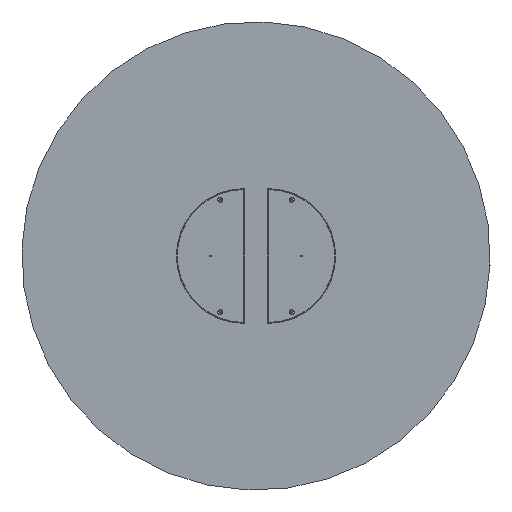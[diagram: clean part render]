
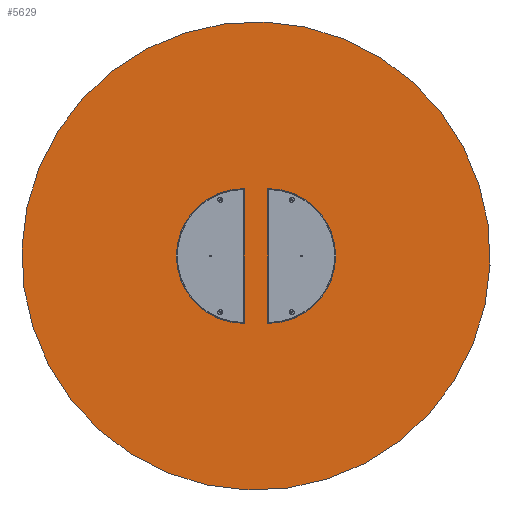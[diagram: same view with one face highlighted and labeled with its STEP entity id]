
A CAD part, front view. The second image highlights one B-rep face of the part: STEP entity #5629.
In plain terms, the highlighted planar face has unit normal (0, -1, 0).
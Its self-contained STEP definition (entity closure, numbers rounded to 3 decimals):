
#58 = CIRCLE ( 'NONE', #4826, 800. ) ;
#346 = DIRECTION ( 'NONE',  ( 0., -1., 0. ) ) ;
#467 = AXIS2_PLACEMENT_3D ( 'NONE', #1599, #5652, #4147 ) ;
#1043 = EDGE_LOOP ( 'NONE', ( #1446, #7497 ) ) ;
#1443 = CIRCLE ( 'NONE', #467, 800. ) ;
#1446 = ORIENTED_EDGE ( 'NONE', *, *, #4768, .T. ) ;
#1599 = CARTESIAN_POINT ( 'NONE',  ( 0., 0., 0. ) ) ;
#1892 = CARTESIAN_POINT ( 'NONE',  ( 0., 0., 800. ) ) ;
#2520 = DIRECTION ( 'NONE',  ( 0., 0., -1. ) ) ;
#2586 = VERTEX_POINT ( 'NONE', #3407 ) ;
#3095 = FACE_OUTER_BOUND ( 'NONE', #1043, .T. ) ;
#3407 = CARTESIAN_POINT ( 'NONE',  ( 0., 0., -800. ) ) ;
#3529 = EDGE_CURVE ( 'NONE', #7929, #2586, #58, .T. ) ;
#3703 = AXIS2_PLACEMENT_3D ( 'NONE', #5856, #346, #4477 ) ;
#4147 = DIRECTION ( 'NONE',  ( 0., 0., -1. ) ) ;
#4477 = DIRECTION ( 'NONE',  ( 0., 0., -1. ) ) ;
#4768 = EDGE_CURVE ( 'NONE', #2586, #7929, #1443, .T. ) ;
#4826 = AXIS2_PLACEMENT_3D ( 'NONE', #7704, #8549, #2520 ) ;
#5629 = ADVANCED_FACE ( 'NONE', ( #3095 ), #7856, .T. ) ;
#5652 = DIRECTION ( 'NONE',  ( 0., -1., 0. ) ) ;
#5856 = CARTESIAN_POINT ( 'NONE',  ( 0., 0., 0. ) ) ;
#7497 = ORIENTED_EDGE ( 'NONE', *, *, #3529, .T. ) ;
#7704 = CARTESIAN_POINT ( 'NONE',  ( 0., 0., 0. ) ) ;
#7856 = PLANE ( 'NONE',  #3703 ) ;
#7929 = VERTEX_POINT ( 'NONE', #1892 ) ;
#8549 = DIRECTION ( 'NONE',  ( 0., -1., 0. ) ) ;
